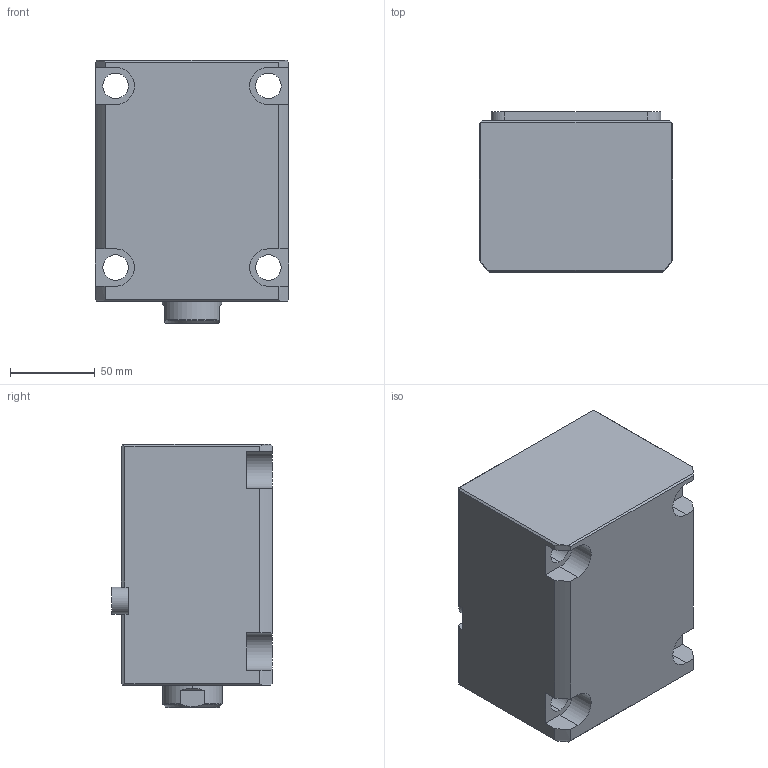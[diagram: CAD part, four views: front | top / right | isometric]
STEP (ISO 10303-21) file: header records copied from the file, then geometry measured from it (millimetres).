
FILE_DESCRIPTION (( 'STEP AP214' ), '1' );
FILE_NAME ('chtb-lam63x75n_asm.STEP', '2018-05-22T03:11:55', ( 'Windows' ), ( 'Microsoft' ), 'SwSTEP 2.0', 'SolidWorks 2015', '' );
FILE_SCHEMA (( 'AUTOMOTIVE_DESIGN' ));
Length unit declared in the file: millimetre
Products named in the file (5): CHTB-LAM63X75NBT; CHTB-LA63PJ; CHTB63X75NHSG; CHTB-63QG; chtb-lam63x75n_asm
Assembly tree (4 placements, depth 2):
  chtb-lam63x75n_asm
    CHTB-63QG
    CHTB63X75NHSG
    CHTB-LA63PJ
    CHTB-LAM63X75NBT
Bounding box: 114 x 94.5 x 155 mm (x, y, z)
Volume: 1204098.7 mm3; surface area: 168604.6 mm2
Topology: 4 solids, 4 shells, 183 faces, 539 edges, 366 vertices
Faces by surface type: cylinder 99, plane 55, bspline 13, cone 8, torus 8
Entity records: 19040 total; most frequent: CARTESIAN_POINT 14352, ORIENTED_EDGE 1066, DIRECTION 788, EDGE_CURVE 533, VERTEX_POINT 366, AXIS2_PLACEMENT_3D 291, VECTOR 206, LINE 206
